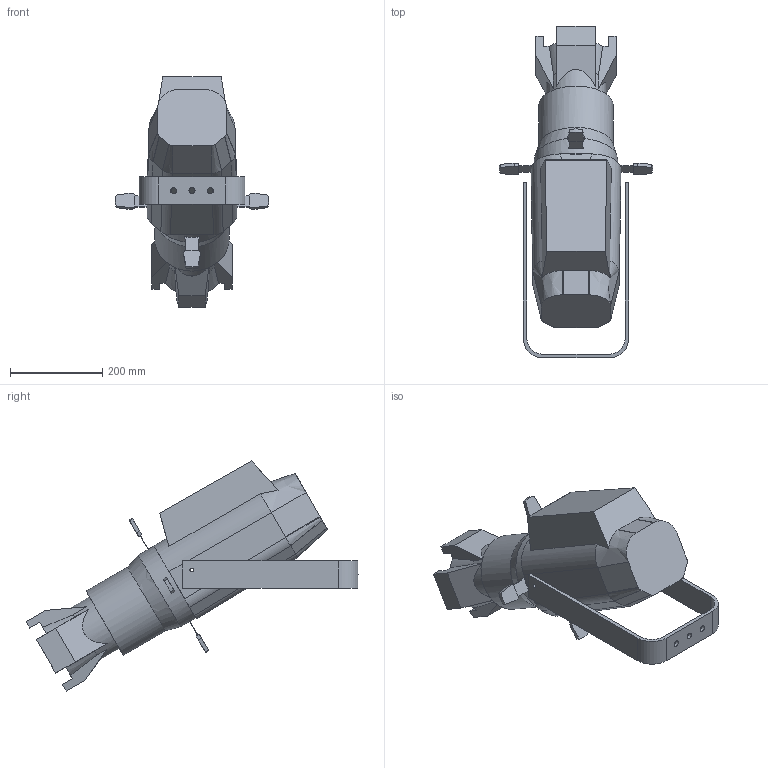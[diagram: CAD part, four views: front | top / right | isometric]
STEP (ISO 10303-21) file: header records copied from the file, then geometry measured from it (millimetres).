
FILE_DESCRIPTION(/* description */ (''),/* implementation_level */ '2;1');
FILE_NAME(/* name */ 'D:/dgooch/Documents/CADENG/PRO/Ovation Réve E-3/30/Ovation Rêve E-3_30.step',/* time_stamp */ '2021-03-18T15:52:54-04:00',/* author */ (''),/* organization */ (''),/* preprocessor_version */ 'ST-DEVELOPER v18.1',/* originating_system */ 'Autodesk Translation Framework v9.10.0.1330',/* authorisation */ '');
FILE_SCHEMA (('AUTOMOTIVE_DESIGN { 1 0 10303 214 3 1 1 }'));
Length unit declared in the file: millimetre
Products named in the file (3): OVATION REVE E-3; Main (1); Bracket_0
Assembly tree (2 placements, depth 2):
  OVATION REVE E-3
    Main (1)
    Bracket_0
Bounding box: 332.08 x 719.32 x 498.72 mm (x, y, z)
Volume: 18379084.7 mm3; surface area: 649682.2 mm2
Topology: 2 solids, 2 shells, 180 faces, 488 edges, 322 vertices
Faces by surface type: plane 107, cylinder 48, bspline 17, cone 8
Full cylindrical faces by diameter (mm): 8.525 x3, 13 x3, 129.5 x2, 160.603 x1, 180.084 x1
Entity records: 6556 total; most frequent: CARTESIAN_POINT 1939, ORIENTED_EDGE 976, DIRECTION 905, EDGE_CURVE 488, VERTEX_POINT 322, LINE 305, VECTOR 305, AXIS2_PLACEMENT_3D 300
